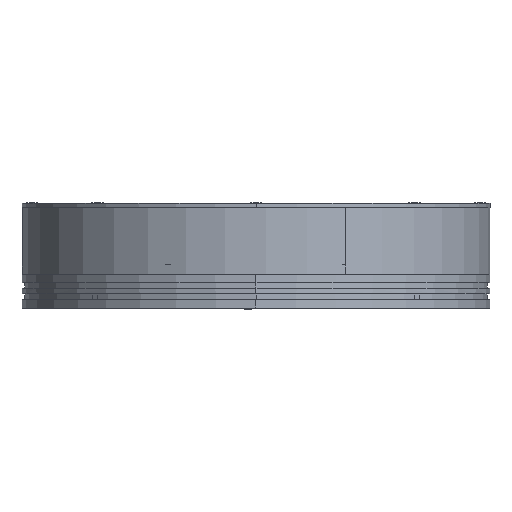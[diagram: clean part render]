
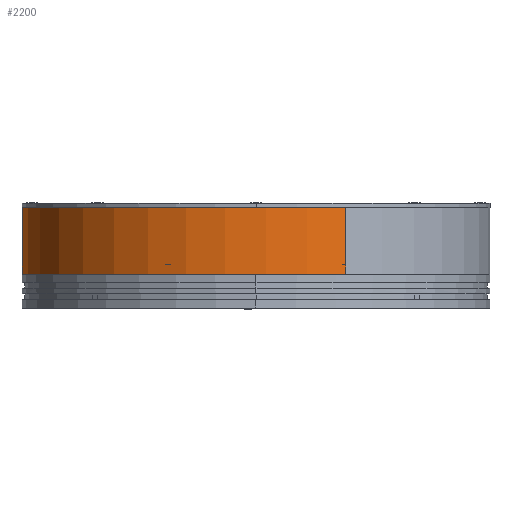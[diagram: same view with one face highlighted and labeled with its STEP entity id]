
A CAD part, left-side view. The second image highlights one B-rep face of the part: STEP entity #2200.
In plain terms, the highlighted cylindrical face has radius 82.5 mm (diameter 165 mm), a partial arc.
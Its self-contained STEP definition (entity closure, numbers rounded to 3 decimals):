
#2200=ADVANCED_FACE('',(#4407),#4408,.T.);
#4407=FACE_OUTER_BOUND('',#6945,.T.);
#4408=CYLINDRICAL_SURFACE('',#6946,82.5);
#6945=EDGE_LOOP('',(#12604,#12605,#12606,#12607));
#6946=AXIS2_PLACEMENT_3D('',#12608,#12609,#12610);
#12604=ORIENTED_EDGE('',*,*,#16586,.F.);
#12605=ORIENTED_EDGE('',*,*,#16587,.T.);
#12606=ORIENTED_EDGE('',*,*,#16588,.T.);
#12607=ORIENTED_EDGE('',*,*,#16589,.T.);
#12608=CARTESIAN_POINT('',(0.,0.,0.));
#12609=DIRECTION('',(0.,0.,-1.0));
#12610=DIRECTION('',(1.0,0.,0.));
#16586=EDGE_CURVE('',#20457,#20458,#20459,.T.);
#16587=EDGE_CURVE('',#20457,#20460,#20461,.T.);
#16588=EDGE_CURVE('',#20460,#20462,#20463,.T.);
#16589=EDGE_CURVE('',#20462,#20458,#20464,.T.);
#20457=VERTEX_POINT('',#27800);
#20458=VERTEX_POINT('',#27801);
#20459=LINE('',#27802,#27803);
#20460=VERTEX_POINT('',#27804);
#20461=CIRCLE('',#27805,82.5);
#20462=VERTEX_POINT('',#27806);
#20463=LINE('',#27807,#27808);
#20464=CIRCLE('',#27809,82.5);
#27800=CARTESIAN_POINT('',(-82.5,0.,23.5));
#27801=CARTESIAN_POINT('',(-82.5,0.,0.0));
#27802=CARTESIAN_POINT('',(-82.5,0.,0.));
#27803=VECTOR('',#30988,1.0);
#27804=CARTESIAN_POINT('',(82.5,0.0,23.5));
#27805=AXIS2_PLACEMENT_3D('',#30989,#30990,#30991);
#27806=CARTESIAN_POINT('',(82.5,0.,0.0));
#27807=CARTESIAN_POINT('',(82.5,0.0,23.5));
#27808=VECTOR('',#30992,23.5);
#27809=AXIS2_PLACEMENT_3D('',#30993,#30994,#30995);
#30988=DIRECTION('',(0.,0.,-1.0));
#30989=CARTESIAN_POINT('',(0.,0.,23.5));
#30990=DIRECTION('',(0.,0.,-1.0));
#30991=DIRECTION('',(1.0,0.,0.));
#30992=DIRECTION('',(0.0,0.,-1.0));
#30993=CARTESIAN_POINT('',(0.,0.,0.0));
#30994=DIRECTION('',(0.0,-0.0,1.0));
#30995=DIRECTION('',(1.0,0.,0.0));
